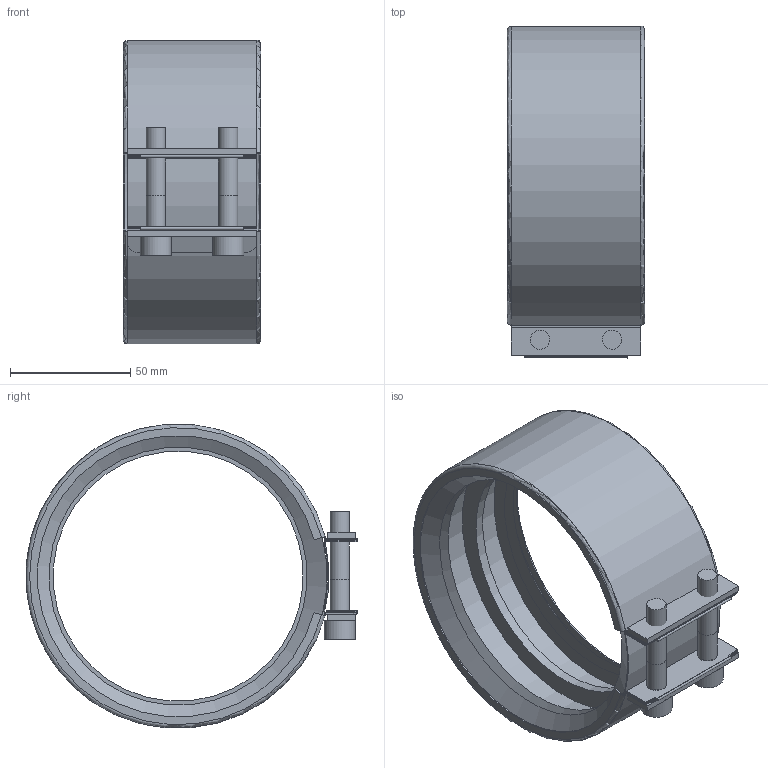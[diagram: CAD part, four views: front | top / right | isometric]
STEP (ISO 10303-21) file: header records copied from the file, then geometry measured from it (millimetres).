
FILE_DESCRIPTION(/* description */ (''),/* implementation_level */ '2;1');
FILE_NAME(/* name */ 'H:\Geberit-Teile\Export\Ü-Spannverb\stp\359441.stp',/* time_stamp */ '2017-11-13T11:08:31+01:00',/* author */ ('seihe2'),/* organization */ (''),/* preprocessor_version */ 'ST-DEVELOPER v15.2',/* originating_system */ 'Autodesk Inventor 2014',/* authorisation */ '');
FILE_SCHEMA (('AUTOMOTIVE_DESIGN { 1 0 10303 214 3 1 1 }'));
Length unit declared in the file: millimetre
Products named in the file (1): 359441
Bounding box: 57 x 137.98 x 126.17 mm (x, y, z)
Volume: 90889.5 mm3; surface area: 126544 mm2
Topology: 6 solids, 6 shells, 148 faces, 361 edges, 231 vertices
Faces by surface type: plane 96, cylinder 42, cone 4, torus 4, bspline 2
Full cylindrical faces by diameter (mm): 4.917 x2, 6 x2, 7.4 x4, 8 x10, 9 x2, 13 x2, 104 x1, 120 x2, 124 x1
Entity records: 4403 total; most frequent: CARTESIAN_POINT 809, DIRECTION 716, ORIENTED_EDGE 632, EDGE_CURVE 316, AXIS2_PLACEMENT_3D 265, EDGE_LOOP 216, VERTEX_POINT 216, LINE 186
